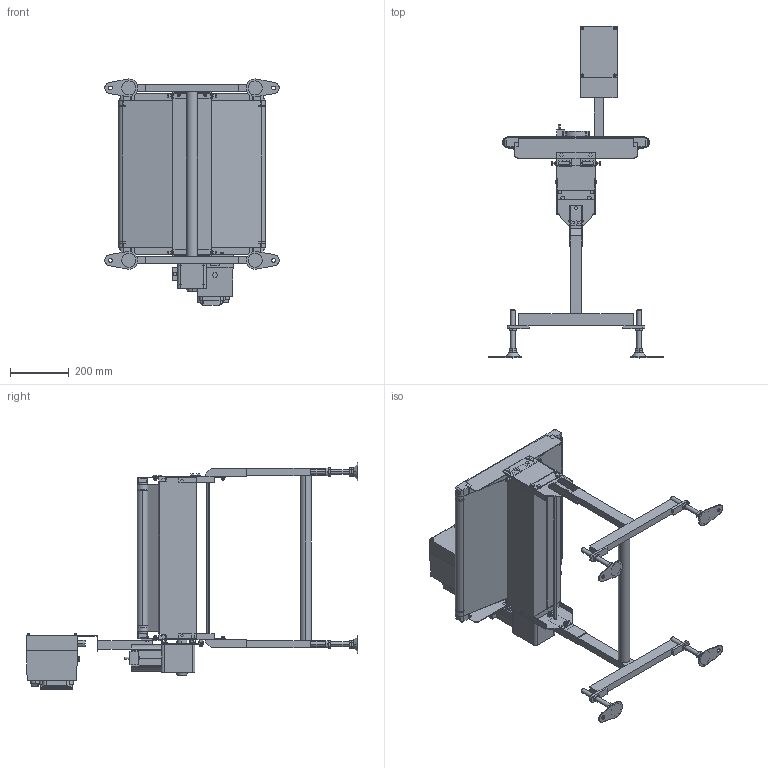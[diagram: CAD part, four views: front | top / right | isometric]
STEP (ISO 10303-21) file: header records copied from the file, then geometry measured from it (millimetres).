
FILE_DESCRIPTION (( 'STEP AP214' ), '1' );
FILE_NAME ('FSDHS-500-500-R.STEP', '2023-04-20T09:12:52', ( '' ), ( '' ), 'SwSTEP 2.0', 'SolidWorks 2017', '' );
FILE_SCHEMA (( 'AUTOMOTIVE_DESIGN' ));
Length unit declared in the file: millimetre
Products named in the file (1): FSDHS-500-500-R
Bounding box: 594 x 1131 x 769.99 mm (x, y, z)
Volume: 20617737.7 mm3; surface area: 3865940.1 mm2
Topology: 46 solids, 48 shells, 1758 faces, 4365 edges, 2866 vertices
Faces by surface type: plane 1175, cylinder 540, cone 29, bspline 14
Entity records: 73980 total; most frequent: CARTESIAN_POINT 11192, DIRECTION 8967, ORIENTED_EDGE 8726, EDGE_CURVE 4363, VECTOR 3103, LINE 3103, AXIS2_PLACEMENT_3D 2932, VERTEX_POINT 2866
